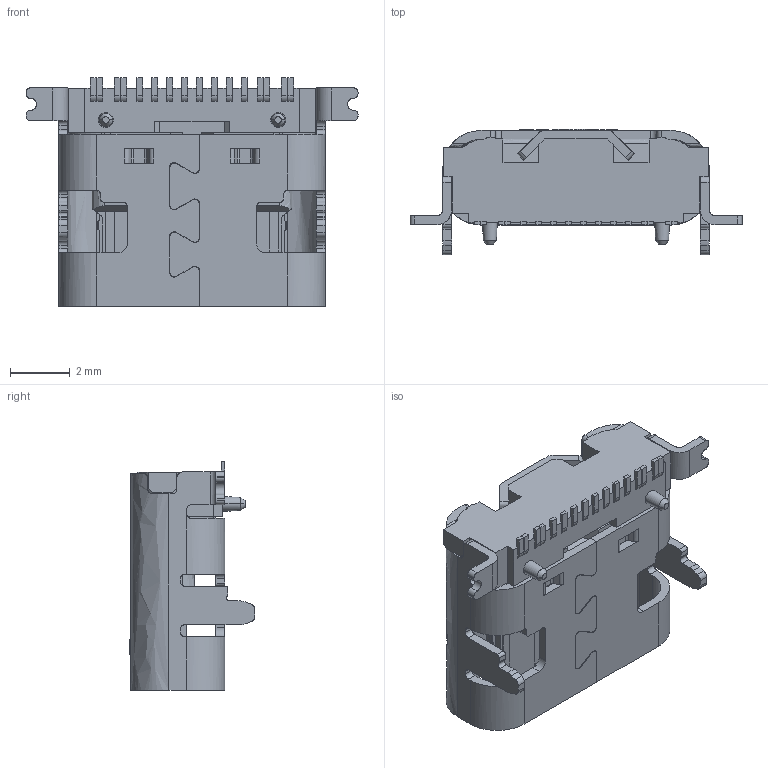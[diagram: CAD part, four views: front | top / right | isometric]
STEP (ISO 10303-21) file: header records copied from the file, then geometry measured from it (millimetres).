
FILE_DESCRIPTION (( 'STEP AP203' ), '1' );
FILE_NAME ('GT-USB-7047B.STEP', '2023-06-21T03:50:05', ( '' ), ( '' ), 'SwSTEP 2.0', 'SolidWorks 2023', '' );
FILE_SCHEMA (( 'CONFIG_CONTROL_DESIGN' ));
Products named in the file (1): GT-USB-7047B
Bounding box: 11.14 x 4.21 x 7.67 mm (x, y, z)
Surface area: 461.4 mm2 (no closed solid volume)
Topology: 0 solids, 22 shells, 973 faces, 2791 edges, 1845 vertices
Faces by surface type: bspline 771, plane 202
Entity records: 34927 total; most frequent: CARTESIAN_POINT 16543, ORIENTED_EDGE 5558, EDGE_CURVE 2791, B_SPLINE_CURVE_WITH_KNOTS 1985, VERTEX_POINT 1845, DIRECTION 996, EDGE_LOOP 989, FACE_OUTER_BOUND 973
